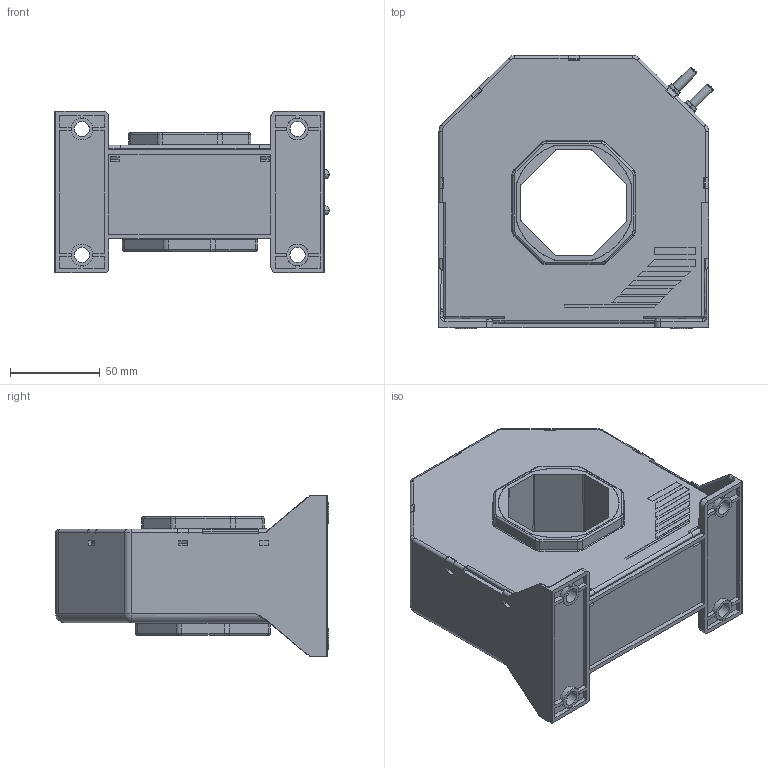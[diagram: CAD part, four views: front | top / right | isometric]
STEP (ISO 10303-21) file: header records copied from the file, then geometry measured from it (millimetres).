
FILE_DESCRIPTION(('CoCreate Modeling STEP Export'),'2;1');
FILE_NAME('LT 2005-S_SP12_Blaclbox.stp','2009-06-09T14:20:17',(''),(''),'CoCreate Modeling STEP processor for AP214 (Solid Model)','CoCreate Modeling 16.00A 16-Aug-2008 (C) Parametric Technology GmbH','');
FILE_SCHEMA(('AUTOMOTIVE_DESIGN { 1 0 10303 214 1 1 1 1 }'));
Length unit declared in the file: millimetre
Products named in the file (3): vis-M4.3; boitier; LT2005-S_SP3_Blackbox
Assembly tree (5 placements, depth 2):
  LT2005-S_SP3_Blackbox
    boitier
    vis-M4.3  x4
Bounding box: 152.51 x 152.2 x 90 mm (x, y, z)
Volume: 957748.9 mm3; surface area: 97309.5 mm2
Topology: 5 solids, 5 shells, 962 faces, 2426 edges, 1553 vertices
Faces by surface type: plane 580, cylinder 240, bspline 75, cone 52, torus 15
Entity records: 34025 total; most frequent: CARTESIAN_POINT 13305, ORIENTED_EDGE 4468, DIRECTION 3955, EDGE_CURVE 2234, VECTOR 1617, LINE 1617, VERTEX_POINT 1433, AXIS2_PLACEMENT_3D 1169
